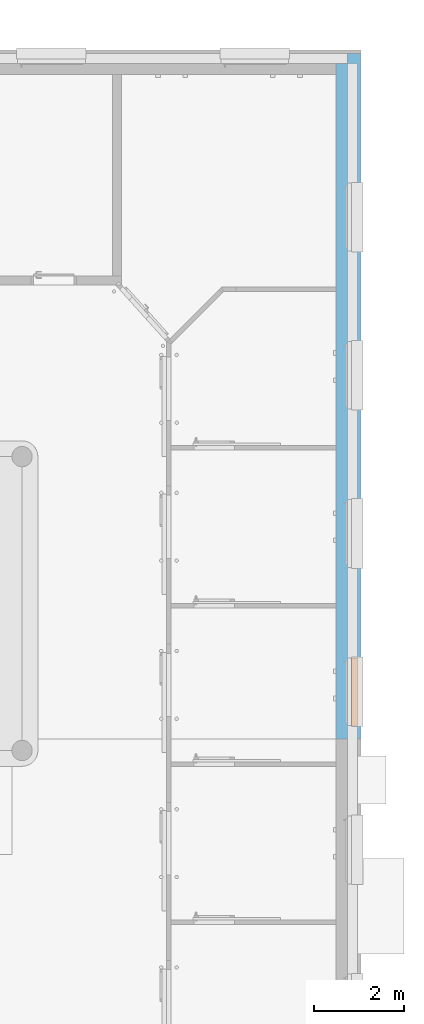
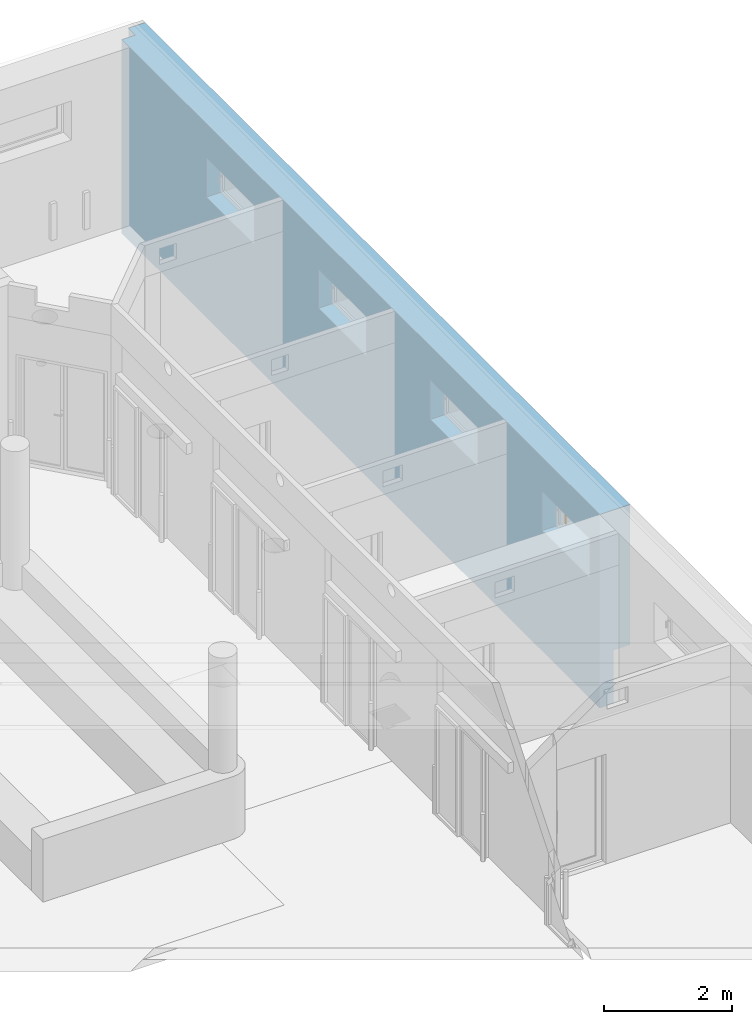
# One storey, part 121 of 140: 1 proxy, 4 openings, plus 1 element that does not belong to this part.
"""IFC4 building model written with IfcOpenShell, lengths in metres."""

from ifc_helpers import new_model, entity, si_unit, converted_unit, derived_unit, frame, origin, origin_with_axes, place, context, subcontext, project, spatial, polyline, outline, extrude, clip, bounded_halfspace, faceted_brep, source, transform, mapped, material, layer, layer_set, layer_usage, element, fill, save


model = new_model("IFC4")

# Units and contexts
model_context = context("Model", 3, precision=1e-05, world=origin())
body_context = subcontext(model_context, "Body", "Model", "MODEL_VIEW")
ifc_project = project(units=[si_unit("LENGTHUNIT", "METRE"), si_unit("AREAUNIT", "SQUARE_METRE"), si_unit("VOLUMEUNIT", "CUBIC_METRE"), si_unit("MASSUNIT", "GRAM", prefix="KILO"), converted_unit("PLANEANGLEUNIT", "DEGREE", entity("IfcPlaneAngleMeasure", 0.0174532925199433), si_unit("PLANEANGLEUNIT", "RADIAN"), dimensions=[0, 0, 0, 0, 0, 0, 0]), derived_unit("THERMALTRANSMITTANCEUNIT", [(si_unit("POWERUNIT", "WATT"), 1), (si_unit("THERMODYNAMICTEMPERATUREUNIT", "KELVIN"), -1), (si_unit("LENGTHUNIT", "METRE"), -2)]), derived_unit("VOLUMETRICFLOWRATEUNIT", [(si_unit("LENGTHUNIT", "METRE"), 3), (converted_unit("TIMEUNIT", "hour", entity("IfcTimeMeasure", 3600.0), si_unit("TIMEUNIT", "SECOND"), dimensions=[0, 0, 1, 0, 0, 0, 0]), -1), (si_unit("LENGTHUNIT", "METRE"), -1)])], contexts=[model_context])

# Site, building, storey
site_placement = place(None, origin())
site = spatial("IfcSite", under=ifc_project, at=site_placement, Name="3. ASŘ", CompositionType="ELEMENT")
building_placement = place(site_placement, origin())
building = spatial("IfcBuilding", under=site, at=building_placement, Name="Pavilon C", CompositionType="ELEMENT")
storey_placement = place(building_placement, origin())
storey = spatial("IfcBuildingStorey", under=building, at=storey_placement, Name="Půdorys 1.NP", CompositionType="ELEMENT", Elevation=0.0)

# Wall, openings, proxy
ifc_material_1 = material(Name="ZELEZOBETONOVÁ KCE")
ifc_layer_1 = layer(ifc_material_1, 0.25)
ifc_material_2 = material(Name="MINERÁLNÍ VATA")
ifc_layer_2 = layer(ifc_material_2, 0.3)
ifc_layer_set = layer_set([ifc_layer_1, ifc_layer_2])
ifc_layer_usage = layer_usage(ifc_layer_set, "AXIS2", "POSITIVE", 0.0)
wall_placement = place(storey_placement, frame((63.55, 32.55, -0.3), z_axis=(0.0, 0.0, 1.0), x_axis=(0.0, -1.0, 0.0)))
wall = element("IfcWall", 1, at=wall_placement, inside=storey, material=ifc_layer_usage, Name="ZELEZOBETONOVÁ KCE", context=body_context, shape_type="Clipping", body=[
    clip(extrude(outline(polyline([(-15.17, 0.55), (-15.17, 0.25), (-14.95, 0.25), (-14.95, 0.0), (0.0, 0.0), (0.0, 0.55), (-15.17, 0.55)])), frame((14.95, 0.0, 0.0), z_axis=(0.0, 0.0, 1.0), x_axis=(1.0, 0.0, 0.0)), (0.0, 0.0, 1.0), 3.7), bounded_halfspace(frame((5.892, 0.37, 1.02), z_axis=(0.0, 0.0, 1.0), x_axis=(0.0, -1.0, 0.0)), True, origin_with_axes(), polyline([(-0.22, 0.55), (-0.22, 0.25), (0.0, 0.249999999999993), (14.95, 0.249999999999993), (14.95, 0.55), (-0.22, 0.55)]))),
])
opening_1_placement = place(wall_placement, frame((11.15, 0.25, 2.3), z_axis=(0.0, -1.0, 0.0), x_axis=(0.0, 0.0, 1.0)))
element("IfcOpeningElement", 2, at=opening_1_placement, cuts=wall, Name="Okenní otvor", ObjectType="Opening", context=body_context, shape_type="SweptSolid", body=[
    extrude(outline(polyline([(0.0, 1.5), (0.75, 1.5), (0.75, 0.0), (0.0, 0.0), (0.0, 1.5)])), origin_with_axes(), (0.0, 0.0, 1.0), 0.25),
    extrude(outline(polyline([(0.0, 1.5), (0.75, 1.5), (0.75, 0.0), (0.0, 0.0), (0.0, 1.5)])), frame((0.0, 0.0, -0.3), z_axis=(0.0, 0.0, 1.0), x_axis=(1.0, 0.0, 0.0)), (0.0, 0.0, 1.0), 0.3),
])
opening_2_placement = place(wall_placement, frame((7.65000000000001, 0.25, 2.3), z_axis=(0.0, -1.0, 0.0), x_axis=(0.0, 0.0, 1.0)))
element("IfcOpeningElement", 3, at=opening_2_placement, cuts=wall, Name="Okenní otvor", ObjectType="Opening", context=body_context, shape_type="SweptSolid", body=[
    extrude(outline(polyline([(0.0, 1.5), (0.75, 1.5), (0.75, 0.0), (0.0, 0.0), (0.0, 1.5)])), origin_with_axes(), (0.0, 0.0, 1.0), 0.25),
    extrude(outline(polyline([(0.0, 1.5), (0.75, 1.5), (0.75, 0.0), (0.0, 0.0), (0.0, 1.5)])), frame((0.0, 0.0, -0.3), z_axis=(0.0, 0.0, 1.0), x_axis=(1.0, 0.0, 0.0)), (0.0, 0.0, 1.0), 0.3),
])
opening_3_placement = place(wall_placement, frame((4.15000000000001, 0.25, 2.3), z_axis=(0.0, -1.0, 0.0), x_axis=(0.0, 0.0, 1.0)))
element("IfcOpeningElement", 4, at=opening_3_placement, cuts=wall, Name="Okenní otvor", ObjectType="Opening", context=body_context, shape_type="SweptSolid", body=[
    extrude(outline(polyline([(0.0, 1.5), (0.75, 1.5), (0.75, 0.0), (0.0, 0.0), (0.0, 1.5)])), origin_with_axes(), (0.0, 0.0, 1.0), 0.25),
    extrude(outline(polyline([(0.0, 1.5), (0.75, 1.5), (0.75, 0.0), (0.0, 0.0), (0.0, 1.5)])), frame((0.0, 0.0, -0.3), z_axis=(0.0, 0.0, 1.0), x_axis=(1.0, 0.0, 0.0)), (0.0, 0.0, 1.0), 0.3),
])
opening_4_placement = place(wall_placement, frame((14.65, 0.25, 2.3), z_axis=(0.0, -1.0, 0.0), x_axis=(0.0, 0.0, 1.0)))
opening_4 = element("IfcOpeningElement", 5, at=opening_4_placement, cuts=wall, Name="Okenní otvor", ObjectType="Opening", context=body_context, shape_type="SweptSolid", body=[
    extrude(outline(polyline([(0.0, 1.5), (0.75, 1.5), (0.75, 0.0), (0.0, 0.0), (0.0, 1.5)])), origin_with_axes(), (0.0, 0.0, 1.0), 0.25),
    extrude(outline(polyline([(0.0, 1.5), (0.75, 1.5), (0.75, 0.0), (0.0, 0.0), (0.0, 1.5)])), frame((0.0, 0.0, -0.3), z_axis=(0.0, 0.0, 1.0), x_axis=(1.0, 0.0, 0.0)), (0.0, 0.0, 1.0), 0.3),
])
shared_shape = source(origin_with_axes(), body_context, "Body", "Brep", [
    faceted_brep([(-7.27595761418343e-15, -0.231999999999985, 0.75), (-7.27595761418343e-15, -0.229999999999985, 0.75), (-7.27595761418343e-15, -0.229999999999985, 0.948), (-7.27595761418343e-15, -0.0939999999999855, 0.948), (-7.27595761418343e-15, -0.0939999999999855, 0.75), (-7.27595761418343e-15, -0.0919999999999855, 0.75), (-7.27595761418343e-15, -0.0919999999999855, 0.95), (-7.27595761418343e-15, -0.231999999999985, 0.95), (1.49999999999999, -0.229999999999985, 0.75), (1.49999999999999, -0.231999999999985, 0.75), (1.49999999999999, -0.231999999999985, 0.95), (1.49999999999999, -0.0919999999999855, 0.95), (1.49999999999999, -0.0919999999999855, 0.75), (1.49999999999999, -0.0939999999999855, 0.75), (1.49999999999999, -0.0939999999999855, 0.948), (1.49999999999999, -0.229999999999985, 0.948)], [[[0, 1, 2, 3, 4, 5, 6, 7]], [[8, 9, 10, 11, 12, 13, 14, 15]], [[1, 0, 9, 8]], [[2, 1, 8, 15]], [[3, 2, 15, 14]], [[4, 3, 14, 13]], [[5, 4, 13, 12]], [[6, 5, 12, 11]], [[7, 6, 11, 10]], [[0, 7, 10, 9]]], orient=[[False], [False], [False], [False], [False], [False], [False], [False], [False], [False]]),
    faceted_brep([(-7.27595761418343e-15, -0.229999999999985, 0.75), (-7.27595761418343e-15, -0.0939999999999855, 0.75), (-7.27595761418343e-15, -0.0939999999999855, 0.948), (-7.27595761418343e-15, -0.229999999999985, 0.948), (0.00199999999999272, -0.0939999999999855, 0.75), (0.00199999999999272, -0.229999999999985, 0.75), (0.00199999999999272, -0.229999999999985, 0.948), (0.00199999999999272, -0.0939999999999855, 0.948)], [[[0, 1, 2, 3]], [[4, 5, 6, 7]], [[1, 0, 5, 4]], [[2, 1, 4, 7]], [[3, 2, 7, 6]], [[0, 3, 6, 5]]], orient=[[False], [False], [False], [False], [False], [False]]),
    faceted_brep([(1.49799999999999, -0.229999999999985, 0.75), (1.49799999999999, -0.0939999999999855, 0.75), (1.49799999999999, -0.0939999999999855, 0.948), (1.49799999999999, -0.229999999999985, 0.948), (1.49999999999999, -0.0939999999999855, 0.75), (1.49999999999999, -0.229999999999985, 0.75), (1.49999999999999, -0.229999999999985, 0.948), (1.49999999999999, -0.0939999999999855, 0.948)], [[[0, 1, 2, 3]], [[4, 5, 6, 7]], [[1, 0, 5, 4]], [[2, 1, 4, 7]], [[3, 2, 7, 6]], [[0, 3, 6, 5]]], orient=[[False], [False], [False], [False], [False], [False]]),
    faceted_brep([(0.00199999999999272, -0.151999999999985, 0.0), (0.00199999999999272, -0.171999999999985, 0.0), (0.0419999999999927, -0.171999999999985, 0.0), (0.0419999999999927, -0.151999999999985, 0.0), (0.00199999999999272, -0.171999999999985, 0.769), (0.00199999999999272, -0.151999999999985, 0.769), (0.0419999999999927, -0.151999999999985, 0.769), (0.0419999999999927, -0.171999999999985, 0.769)], [[[0, 1, 2, 3]], [[4, 5, 6, 7]], [[1, 0, 5, 4]], [[2, 1, 4, 7]], [[3, 2, 7, 6]], [[0, 3, 6, 5]]], orient=[[False], [False], [False], [False], [False], [False]]),
    faceted_brep([(1.45799999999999, -0.151999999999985, 0.0), (1.45799999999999, -0.171999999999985, 0.0), (1.49799999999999, -0.171999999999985, 0.0), (1.49799999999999, -0.151999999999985, 0.0), (1.45799999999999, -0.171999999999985, 0.769), (1.45799999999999, -0.151999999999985, 0.769), (1.49799999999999, -0.151999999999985, 0.769), (1.49799999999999, -0.171999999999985, 0.769)], [[[0, 1, 2, 3]], [[4, 5, 6, 7]], [[1, 0, 5, 4]], [[2, 1, 4, 7]], [[3, 2, 7, 6]], [[0, 3, 6, 5]]], orient=[[False], [False], [False], [False], [False], [False]]),
    faceted_brep([(0.0419999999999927, -0.121999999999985, 0.6021), (0.0419999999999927, -0.201999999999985, 0.6021), (0.0419999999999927, -0.201999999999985, 0.5871), (0.0419999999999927, -0.121999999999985, 0.5871), (1.45799999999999, -0.201999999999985, 0.6021), (1.45799999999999, -0.121999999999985, 0.6021), (1.45799999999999, -0.121999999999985, 0.5871), (1.45799999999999, -0.201999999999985, 0.5871)], [[[0, 1, 2, 3]], [[4, 5, 6, 7]], [[1, 0, 5, 4]], [[2, 1, 4, 7]], [[3, 2, 7, 6]], [[0, 3, 6, 5]]], orient=[[False], [False], [False], [False], [False], [False]]),
    faceted_brep([(0.0419999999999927, -0.121999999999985, 0.6031), (0.0419999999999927, -0.201999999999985, 0.6031), (0.0419999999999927, -0.201999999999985, 0.6021), (0.0419999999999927, -0.121999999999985, 0.6021), (1.45799999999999, -0.201999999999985, 0.6031), (1.45799999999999, -0.121999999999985, 0.6031), (1.45799999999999, -0.121999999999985, 0.6021), (1.45799999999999, -0.201999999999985, 0.6021)], [[[0, 1, 2, 3]], [[4, 5, 6, 7]], [[1, 0, 5, 4]], [[2, 1, 4, 7]], [[3, 2, 7, 6]], [[0, 3, 6, 5]]], orient=[[False], [False], [False], [False], [False], [False]]),
    faceted_brep([(0.0419999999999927, -0.121999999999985, 0.6041), (0.0419999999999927, -0.201999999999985, 0.6041), (0.0419999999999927, -0.201999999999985, 0.6031), (0.0419999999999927, -0.121999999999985, 0.6031), (1.45799999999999, -0.201999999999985, 0.6041), (1.45799999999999, -0.121999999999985, 0.6041), (1.45799999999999, -0.121999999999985, 0.6031), (1.45799999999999, -0.201999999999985, 0.6031)], [[[0, 1, 2, 3]], [[4, 5, 6, 7]], [[1, 0, 5, 4]], [[2, 1, 4, 7]], [[3, 2, 7, 6]], [[0, 3, 6, 5]]], orient=[[False], [False], [False], [False], [False], [False]]),
    faceted_brep([(0.0419999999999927, -0.121999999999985, 0.6051), (0.0419999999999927, -0.201999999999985, 0.6051), (0.0419999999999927, -0.201999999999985, 0.6041), (0.0419999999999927, -0.121999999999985, 0.6041), (1.45799999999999, -0.201999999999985, 0.6051), (1.45799999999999, -0.121999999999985, 0.6051), (1.45799999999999, -0.121999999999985, 0.6041), (1.45799999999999, -0.201999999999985, 0.6041)], [[[0, 1, 2, 3]], [[4, 5, 6, 7]], [[1, 0, 5, 4]], [[2, 1, 4, 7]], [[3, 2, 7, 6]], [[0, 3, 6, 5]]], orient=[[False], [False], [False], [False], [False], [False]]),
    faceted_brep([(0.0419999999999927, -0.121999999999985, 0.6061), (0.0419999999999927, -0.201999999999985, 0.6061), (0.0419999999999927, -0.201999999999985, 0.6051), (0.0419999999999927, -0.121999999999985, 0.6051), (1.45799999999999, -0.201999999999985, 0.6061), (1.45799999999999, -0.121999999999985, 0.6061), (1.45799999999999, -0.121999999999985, 0.6051), (1.45799999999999, -0.201999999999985, 0.6051)], [[[0, 1, 2, 3]], [[4, 5, 6, 7]], [[1, 0, 5, 4]], [[2, 1, 4, 7]], [[3, 2, 7, 6]], [[0, 3, 6, 5]]], orient=[[False], [False], [False], [False], [False], [False]]),
    faceted_brep([(0.0419999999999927, -0.121999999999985, 0.6071), (0.0419999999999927, -0.201999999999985, 0.6071), (0.0419999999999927, -0.201999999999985, 0.6061), (0.0419999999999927, -0.121999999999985, 0.6061), (1.45799999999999, -0.201999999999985, 0.6071), (1.45799999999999, -0.121999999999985, 0.6071), (1.45799999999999, -0.121999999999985, 0.6061), (1.45799999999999, -0.201999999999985, 0.6061)], [[[0, 1, 2, 3]], [[4, 5, 6, 7]], [[1, 0, 5, 4]], [[2, 1, 4, 7]], [[3, 2, 7, 6]], [[0, 3, 6, 5]]], orient=[[False], [False], [False], [False], [False], [False]]),
    faceted_brep([(0.0419999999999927, -0.121999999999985, 0.6081), (0.0419999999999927, -0.201999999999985, 0.6081), (0.0419999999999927, -0.201999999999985, 0.6071), (0.0419999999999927, -0.121999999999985, 0.6071), (1.45799999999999, -0.201999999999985, 0.6081), (1.45799999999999, -0.121999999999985, 0.6081), (1.45799999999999, -0.121999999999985, 0.6071), (1.45799999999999, -0.201999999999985, 0.6071)], [[[0, 1, 2, 3]], [[4, 5, 6, 7]], [[1, 0, 5, 4]], [[2, 1, 4, 7]], [[3, 2, 7, 6]], [[0, 3, 6, 5]]], orient=[[False], [False], [False], [False], [False], [False]]),
    faceted_brep([(0.0419999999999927, -0.121999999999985, 0.6091), (0.0419999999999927, -0.201999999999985, 0.6091), (0.0419999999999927, -0.201999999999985, 0.6081), (0.0419999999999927, -0.121999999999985, 0.6081), (1.45799999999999, -0.201999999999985, 0.6091), (1.45799999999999, -0.121999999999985, 0.6091), (1.45799999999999, -0.121999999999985, 0.6081), (1.45799999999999, -0.201999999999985, 0.6081)], [[[0, 1, 2, 3]], [[4, 5, 6, 7]], [[1, 0, 5, 4]], [[2, 1, 4, 7]], [[3, 2, 7, 6]], [[0, 3, 6, 5]]], orient=[[False], [False], [False], [False], [False], [False]]),
    faceted_brep([(0.0419999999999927, -0.121999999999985, 0.6101), (0.0419999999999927, -0.201999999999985, 0.6101), (0.0419999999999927, -0.201999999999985, 0.6091), (0.0419999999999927, -0.121999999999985, 0.6091), (1.45799999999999, -0.201999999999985, 0.6101), (1.45799999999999, -0.121999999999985, 0.6101), (1.45799999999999, -0.121999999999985, 0.6091), (1.45799999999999, -0.201999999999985, 0.6091)], [[[0, 1, 2, 3]], [[4, 5, 6, 7]], [[1, 0, 5, 4]], [[2, 1, 4, 7]], [[3, 2, 7, 6]], [[0, 3, 6, 5]]], orient=[[False], [False], [False], [False], [False], [False]]),
    faceted_brep([(0.0419999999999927, -0.121999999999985, 0.6111), (0.0419999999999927, -0.201999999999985, 0.6111), (0.0419999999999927, -0.201999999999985, 0.6101), (0.0419999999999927, -0.121999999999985, 0.6101), (1.45799999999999, -0.201999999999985, 0.6111), (1.45799999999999, -0.121999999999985, 0.6111), (1.45799999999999, -0.121999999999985, 0.6101), (1.45799999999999, -0.201999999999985, 0.6101)], [[[0, 1, 2, 3]], [[4, 5, 6, 7]], [[1, 0, 5, 4]], [[2, 1, 4, 7]], [[3, 2, 7, 6]], [[0, 3, 6, 5]]], orient=[[False], [False], [False], [False], [False], [False]]),
    faceted_brep([(0.0419999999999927, -0.121999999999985, 0.6121), (0.0419999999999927, -0.201999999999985, 0.6121), (0.0419999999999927, -0.201999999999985, 0.6111), (0.0419999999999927, -0.121999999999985, 0.6111), (1.45799999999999, -0.201999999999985, 0.6121), (1.45799999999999, -0.121999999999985, 0.6121), (1.45799999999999, -0.121999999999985, 0.6111), (1.45799999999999, -0.201999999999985, 0.6111)], [[[0, 1, 2, 3]], [[4, 5, 6, 7]], [[1, 0, 5, 4]], [[2, 1, 4, 7]], [[3, 2, 7, 6]], [[0, 3, 6, 5]]], orient=[[False], [False], [False], [False], [False], [False]]),
    faceted_brep([(0.0419999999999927, -0.121999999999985, 0.6131), (0.0419999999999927, -0.201999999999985, 0.6131), (0.0419999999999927, -0.201999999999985, 0.6121), (0.0419999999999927, -0.121999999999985, 0.6121), (1.45799999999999, -0.201999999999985, 0.6131), (1.45799999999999, -0.121999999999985, 0.6131), (1.45799999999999, -0.121999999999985, 0.6121), (1.45799999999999, -0.201999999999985, 0.6121)], [[[0, 1, 2, 3]], [[4, 5, 6, 7]], [[1, 0, 5, 4]], [[2, 1, 4, 7]], [[3, 2, 7, 6]], [[0, 3, 6, 5]]], orient=[[False], [False], [False], [False], [False], [False]]),
    faceted_brep([(0.0419999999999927, -0.121999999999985, 0.6141), (0.0419999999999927, -0.201999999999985, 0.6141), (0.0419999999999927, -0.201999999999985, 0.6131), (0.0419999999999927, -0.121999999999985, 0.6131), (1.45799999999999, -0.201999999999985, 0.6141), (1.45799999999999, -0.121999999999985, 0.6141), (1.45799999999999, -0.121999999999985, 0.6131), (1.45799999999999, -0.201999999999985, 0.6131)], [[[0, 1, 2, 3]], [[4, 5, 6, 7]], [[1, 0, 5, 4]], [[2, 1, 4, 7]], [[3, 2, 7, 6]], [[0, 3, 6, 5]]], orient=[[False], [False], [False], [False], [False], [False]]),
    faceted_brep([(0.0419999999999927, -0.121999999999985, 0.6151), (0.0419999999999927, -0.201999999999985, 0.6151), (0.0419999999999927, -0.201999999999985, 0.6141), (0.0419999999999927, -0.121999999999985, 0.6141), (1.45799999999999, -0.201999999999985, 0.6151), (1.45799999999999, -0.121999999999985, 0.6151), (1.45799999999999, -0.121999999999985, 0.6141), (1.45799999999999, -0.201999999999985, 0.6141)], [[[0, 1, 2, 3]], [[4, 5, 6, 7]], [[1, 0, 5, 4]], [[2, 1, 4, 7]], [[3, 2, 7, 6]], [[0, 3, 6, 5]]], orient=[[False], [False], [False], [False], [False], [False]]),
    faceted_brep([(0.0419999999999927, -0.121999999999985, 0.6161), (0.0419999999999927, -0.201999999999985, 0.6161), (0.0419999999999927, -0.201999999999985, 0.6151), (0.0419999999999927, -0.121999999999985, 0.6151), (1.45799999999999, -0.201999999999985, 0.6161), (1.45799999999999, -0.121999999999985, 0.6161), (1.45799999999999, -0.121999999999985, 0.6151), (1.45799999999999, -0.201999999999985, 0.6151)], [[[0, 1, 2, 3]], [[4, 5, 6, 7]], [[1, 0, 5, 4]], [[2, 1, 4, 7]], [[3, 2, 7, 6]], [[0, 3, 6, 5]]], orient=[[False], [False], [False], [False], [False], [False]]),
    faceted_brep([(0.0419999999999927, -0.123299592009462, 0.645125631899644), (0.0419999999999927, -0.200941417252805, 0.625844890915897), (0.0419999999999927, -0.200700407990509, 0.624874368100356), (0.0419999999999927, -0.123058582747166, 0.644155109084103), (1.45799999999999, -0.200941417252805, 0.625844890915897), (1.45799999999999, -0.123299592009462, 0.645125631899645), (1.45799999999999, -0.123058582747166, 0.644155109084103), (1.45799999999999, -0.200700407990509, 0.624874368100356)], [[[0, 1, 2, 3]], [[4, 5, 6, 7]], [[1, 0, 5, 4]], [[2, 1, 4, 7]], [[3, 2, 7, 6]], [[0, 3, 6, 5]]], orient=[[False], [False], [False], [False], [False], [False]]),
    faceted_brep([(0.0419999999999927, -0.127608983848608, 0.700433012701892), (0.0419999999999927, -0.196891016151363, 0.660433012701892), (0.0419999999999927, -0.196391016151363, 0.659566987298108), (0.0419999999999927, -0.127108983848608, 0.699566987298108), (1.45799999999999, -0.196891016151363, 0.660433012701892), (1.45799999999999, -0.127608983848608, 0.700433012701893), (1.45799999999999, -0.127108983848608, 0.699566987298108), (1.45799999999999, -0.196391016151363, 0.659566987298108)], [[[0, 1, 2, 3]], [[4, 5, 6, 7]], [[1, 0, 5, 4]], [[2, 1, 4, 7]], [[3, 2, 7, 6]], [[0, 3, 6, 5]]], orient=[[False], [False], [False], [False], [False], [False]]),
    faceted_brep([(0.0419999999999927, -0.127608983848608, 0.745433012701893), (0.0419999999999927, -0.196891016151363, 0.705433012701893), (0.0419999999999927, -0.196391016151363, 0.704566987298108), (0.0419999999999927, -0.127108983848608, 0.744566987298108), (1.45799999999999, -0.196891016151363, 0.705433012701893), (1.45799999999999, -0.127608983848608, 0.745433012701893), (1.45799999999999, -0.127108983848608, 0.744566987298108), (1.45799999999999, -0.196391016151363, 0.704566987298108)], [[[0, 1, 2, 3]], [[4, 5, 6, 7]], [[1, 0, 5, 4]], [[2, 1, 4, 7]], [[3, 2, 7, 6]], [[0, 3, 6, 5]]], orient=[[False], [False], [False], [False], [False], [False]]),
])
proxy_placement = place(opening_4_placement, frame((0.0, 0.0, 0.0), z_axis=(1.0, 0.0, 0.0), x_axis=(0.0, 1.0, 0.0)))
proxy = element("IfcBuildingElementProxy", 6, at=proxy_placement, inside=storey, Name="Žaluzie", context=body_context, shape_type="MappedRepresentation", body=[
    mapped(shared_shape, transform((0.0, 0.0, 0.0), x_axis=(1.0, 0.0, 0.0), y_axis=(0.0, 1.0, 0.0), z_axis=(0.0, 0.0, 1.0), scale=1.0)),
])
fill(opening_4, proxy)

save(model, "model.ifc")
